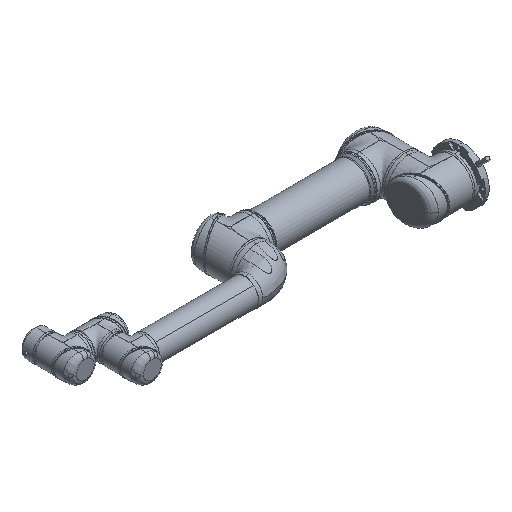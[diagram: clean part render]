
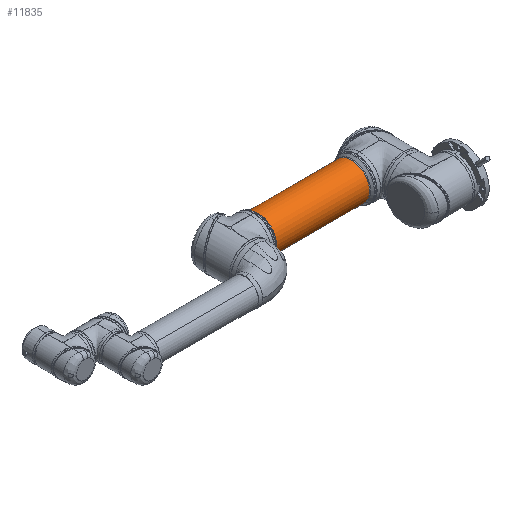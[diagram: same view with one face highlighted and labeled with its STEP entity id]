
A CAD part, isometric view. The second image highlights one B-rep face of the part: STEP entity #11835.
In plain terms, the highlighted cylindrical face has radius 50.13 mm (diameter 100.26 mm), a partial arc.
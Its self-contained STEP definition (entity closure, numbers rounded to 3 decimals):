
#901 = CARTESIAN_POINT ( 'NONE',  ( 128.887, 0., -50.13 ) ) ;
#1413 = EDGE_CURVE ( 'NONE', #16726, #28126, #26807, .T. ) ;
#3415 = CARTESIAN_POINT ( 'NONE',  ( 0., 0., 50.13 ) ) ;
#5273 = VECTOR ( 'NONE', #13834, 1000. ) ;
#6590 = VECTOR ( 'NONE', #20180, 1000. ) ;
#7641 = ORIENTED_EDGE ( 'NONE', *, *, #27361, .T. ) ;
#9360 = AXIS2_PLACEMENT_3D ( 'NONE', #30681, #30672, #30636 ) ;
#10237 = CARTESIAN_POINT ( 'NONE',  ( -128.887, 50.13, 0. ) ) ;
#10666 = ORIENTED_EDGE ( 'NONE', *, *, #1413, .T. ) ;
#10830 = DIRECTION ( 'NONE',  ( 0., 0., -1. ) ) ;
#10863 = DIRECTION ( 'NONE',  ( 1., 0., 0. ) ) ;
#10872 = CARTESIAN_POINT ( 'NONE',  ( -128.887, 0., 0. ) ) ;
#11835 = ADVANCED_FACE ( 'NONE', ( #29592 ), #21897, .T. ) ;
#13834 = DIRECTION ( 'NONE',  ( 1., 0., 0. ) ) ;
#16726 = VERTEX_POINT ( 'NONE', #20181 ) ;
#17235 = ORIENTED_EDGE ( 'NONE', *, *, #19045, .F. ) ;
#18062 = CARTESIAN_POINT ( 'NONE',  ( -128.887, 0., -50.13 ) ) ;
#19045 = EDGE_CURVE ( 'NONE', #24917, #28126, #39004, .T. ) ;
#19885 = AXIS2_PLACEMENT_3D ( 'NONE', #10872, #10863, #10830 ) ;
#20177 = CARTESIAN_POINT ( 'NONE',  ( 0., 0., -50.13 ) ) ;
#20180 = DIRECTION ( 'NONE',  ( 1., 0., 0. ) ) ;
#20181 = CARTESIAN_POINT ( 'NONE',  ( 128.887, 0., 50.13 ) ) ;
#20433 = DIRECTION ( 'NONE',  ( 0., 0., -1. ) ) ;
#20469 = DIRECTION ( 'NONE',  ( 1., 0., 0. ) ) ;
#20481 = CARTESIAN_POINT ( 'NONE',  ( -128.887, 0., 0. ) ) ;
#20797 = ORIENTED_EDGE ( 'NONE', *, *, #35419, .T. ) ;
#21720 = CIRCLE ( 'NONE', #34400, 50.13 ) ;
#21897 = CYLINDRICAL_SURFACE ( 'NONE', #33841, 50.13 ) ;
#22728 = LINE ( 'NONE', #3415, #5273 ) ;
#23512 = EDGE_LOOP ( 'NONE', ( #20797, #25297, #7641, #10666, #17235 ) ) ;
#23705 = VERTEX_POINT ( 'NONE', #10237 ) ;
#24298 = EDGE_CURVE ( 'NONE', #23705, #28611, #21720, .T. ) ;
#24358 = CARTESIAN_POINT ( 'NONE',  ( -128.887, 0., 50.13 ) ) ;
#24917 = VERTEX_POINT ( 'NONE', #18062 ) ;
#25297 = ORIENTED_EDGE ( 'NONE', *, *, #24298, .T. ) ;
#26807 = CIRCLE ( 'NONE', #9360, 50.13 ) ;
#27361 = EDGE_CURVE ( 'NONE', #28611, #16726, #22728, .T. ) ;
#28126 = VERTEX_POINT ( 'NONE', #901 ) ;
#28611 = VERTEX_POINT ( 'NONE', #24358 ) ;
#29592 = FACE_OUTER_BOUND ( 'NONE', #23512, .T. ) ;
#29975 = CARTESIAN_POINT ( 'NONE',  ( 0., 0., 0. ) ) ;
#30229 = DIRECTION ( 'NONE',  ( 1., 0., 0. ) ) ;
#30636 = DIRECTION ( 'NONE',  ( 0., 0., -1. ) ) ;
#30672 = DIRECTION ( 'NONE',  ( -1., 0., 0. ) ) ;
#30681 = CARTESIAN_POINT ( 'NONE',  ( 128.887, 0., 0. ) ) ;
#33841 = AXIS2_PLACEMENT_3D ( 'NONE', #29975, #30229, #35985 ) ;
#34400 = AXIS2_PLACEMENT_3D ( 'NONE', #20481, #20469, #20433 ) ;
#35419 = EDGE_CURVE ( 'NONE', #24917, #23705, #36138, .T. ) ;
#35985 = DIRECTION ( 'NONE',  ( 0., 0., -1. ) ) ;
#36138 = CIRCLE ( 'NONE', #19885, 50.13 ) ;
#39004 = LINE ( 'NONE', #20177, #6590 ) ;
